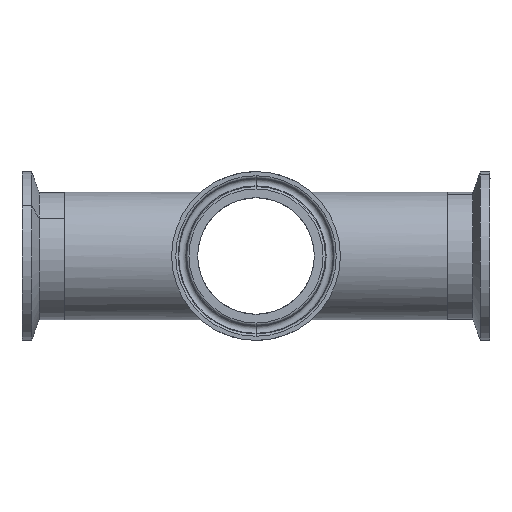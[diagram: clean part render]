
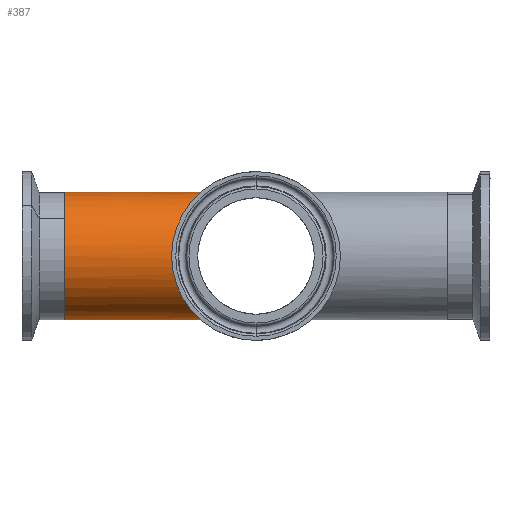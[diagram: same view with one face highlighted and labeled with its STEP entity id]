
A CAD part, front view. The second image highlights one B-rep face of the part: STEP entity #387.
In plain terms, the highlighted cylindrical face has radius 19.05 mm (diameter 38.1 mm), a partial arc.
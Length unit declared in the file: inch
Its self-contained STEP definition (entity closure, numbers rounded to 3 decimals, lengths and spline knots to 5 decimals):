
#3 = ORIENTED_EDGE ( 'NONE', *, *, #1084, .F. ) ;
#29 = VECTOR ( 'NONE', #569, 39.37008 ) ;
#89 = ORIENTED_EDGE ( 'NONE', *, *, #1289, .F. ) ;
#91 = CYLINDRICAL_SURFACE ( 'NONE', #647, 0.75 ) ;
#181 = CARTESIAN_POINT ( 'NONE',  ( -2.25, 0., 0.75 ) ) ;
#183 =( BOUNDED_CURVE ( )  B_SPLINE_CURVE ( 3, ( #956, #1279, #1401, #831 ),
 .UNSPECIFIED., .F., .F. ) 
 B_SPLINE_CURVE_WITH_KNOTS ( ( 4, 4 ),
 ( 4.71239, 7.85398 ),
 .UNSPECIFIED. ) 
 CURVE ( )  GEOMETRIC_REPRESENTATION_ITEM ( )  RATIONAL_B_SPLINE_CURVE ( ( 1., 0.333, 0.333, 1. ) ) 
 REPRESENTATION_ITEM ( '' )  );
#199 = FACE_OUTER_BOUND ( 'NONE', #1218, .T. ) ;
#246 = CIRCLE ( 'NONE', #1210, 0.75 ) ;
#276 = EDGE_CURVE ( 'NONE', #1434, #615, #1484, .T. ) ;
#307 = DIRECTION ( 'NONE',  ( 1., 0., 0. ) ) ;
#319 = DIRECTION ( 'NONE',  ( 1., 0., 0. ) ) ;
#387 = ADVANCED_FACE ( 'NONE', ( #199 ), #91, .T. ) ;
#535 = ORIENTED_EDGE ( 'NONE', *, *, #777, .T. ) ;
#568 = CARTESIAN_POINT ( 'NONE',  ( -2.25, 0., 0.75 ) ) ;
#569 = DIRECTION ( 'NONE',  ( 1., 0., 0. ) ) ;
#615 = VERTEX_POINT ( 'NONE', #1296 ) ;
#638 = CARTESIAN_POINT ( 'NONE',  ( -2.25, 0., -0.75 ) ) ;
#647 = AXIS2_PLACEMENT_3D ( 'NONE', #1356, #319, #782 ) ;
#687 = DIRECTION ( 'NONE',  ( 1., 0., 0. ) ) ;
#777 = EDGE_CURVE ( 'NONE', #898, #1434, #246, .T. ) ;
#782 = DIRECTION ( 'NONE',  ( 0., 0., -1. ) ) ;
#823 = CARTESIAN_POINT ( 'NONE',  ( 0., 0., 0.75 ) ) ;
#831 = CARTESIAN_POINT ( 'NONE',  ( 0., 0., -0.75 ) ) ;
#880 = DIRECTION ( 'NONE',  ( 0., 0., -1. ) ) ;
#893 = CARTESIAN_POINT ( 'NONE',  ( -2.25, 0., 0. ) ) ;
#898 = VERTEX_POINT ( 'NONE', #181 ) ;
#949 = ORIENTED_EDGE ( 'NONE', *, *, #276, .T. ) ;
#956 = CARTESIAN_POINT ( 'NONE',  ( 0., 0., 0.75 ) ) ;
#1084 = EDGE_CURVE ( 'NONE', #898, #1241, #1139, .T. ) ;
#1122 = CARTESIAN_POINT ( 'NONE',  ( -2.25, 0., -0.75 ) ) ;
#1139 = LINE ( 'NONE', #568, #1285 ) ;
#1210 = AXIS2_PLACEMENT_3D ( 'NONE', #893, #307, #880 ) ;
#1218 = EDGE_LOOP ( 'NONE', ( #3, #535, #949, #89 ) ) ;
#1241 = VERTEX_POINT ( 'NONE', #823 ) ;
#1279 = CARTESIAN_POINT ( 'NONE',  ( -1.5, -1.5, 0.75 ) ) ;
#1285 = VECTOR ( 'NONE', #687, 39.37008 ) ;
#1289 = EDGE_CURVE ( 'NONE', #1241, #615, #183, .T. ) ;
#1296 = CARTESIAN_POINT ( 'NONE',  ( 0., 0., -0.75 ) ) ;
#1356 = CARTESIAN_POINT ( 'NONE',  ( -2.25, 0., 0. ) ) ;
#1401 = CARTESIAN_POINT ( 'NONE',  ( -1.5, -1.5, -0.75 ) ) ;
#1434 = VERTEX_POINT ( 'NONE', #638 ) ;
#1484 = LINE ( 'NONE', #1122, #29 ) ;
